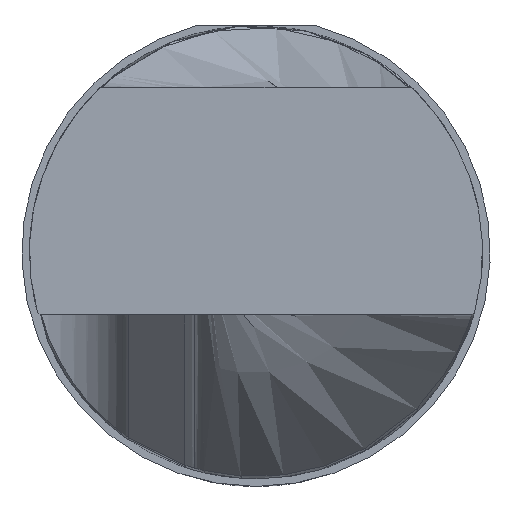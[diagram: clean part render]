
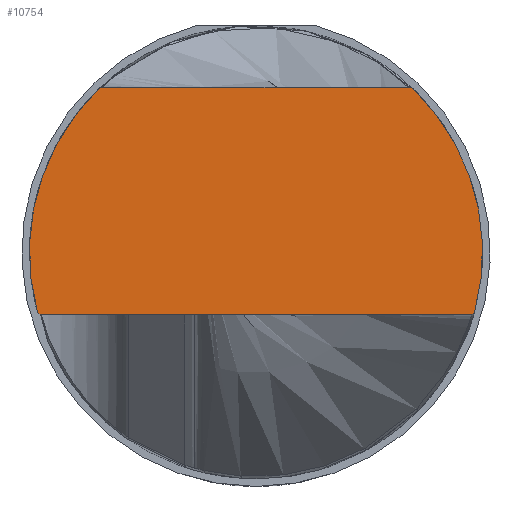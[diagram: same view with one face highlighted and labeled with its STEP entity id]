
A CAD part, front view. The second image highlights one B-rep face of the part: STEP entity #10754.
In plain terms, the highlighted planar face has unit normal (0, -1, 0).
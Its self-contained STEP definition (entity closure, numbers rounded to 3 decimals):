
#221 = CARTESIAN_POINT ( 'NONE',  ( 51.349, -2020., 54.405 ) ) ;
#346 = CARTESIAN_POINT ( 'NONE',  ( 51.587, -2020., 54.309 ) ) ;
#563 = DIRECTION ( 'NONE',  ( 0., 0., -1. ) ) ;
#621 = FACE_OUTER_BOUND ( 'NONE', #11854, .T. ) ;
#673 = CIRCLE ( 'NONE', #10057, 75. ) ;
#683 = CARTESIAN_POINT ( 'NONE',  ( 71.993, -2020., -20.17 ) ) ;
#749 = CARTESIAN_POINT ( 'NONE',  ( 0., -2020., 54.5 ) ) ;
#899 = VECTOR ( 'NONE', #4522, 1000. ) ;
#1401 = VERTEX_POINT ( 'NONE', #4199 ) ;
#1604 = EDGE_CURVE ( 'NONE', #9138, #10384, #3257, .T. ) ;
#1809 = EDGE_CURVE ( 'NONE', #9884, #9138, #11772, .T. ) ;
#1867 = EDGE_CURVE ( 'NONE', #4128, #6767, #6652, .T. ) ;
#1870 = CARTESIAN_POINT ( 'NONE',  ( 51.111, -2020., 54.5 ) ) ;
#2055 = CARTESIAN_POINT ( 'NONE',  ( -51.357, -2020., 54.409 ) ) ;
#2121 = VERTEX_POINT ( 'NONE', #7014 ) ;
#2350 = DIRECTION ( 'NONE',  ( 0., -1., 0. ) ) ;
#2539 = CARTESIAN_POINT ( 'NONE',  ( 51.111, -2020., 54.5 ) ) ;
#2795 = ORIENTED_EDGE ( 'NONE', *, *, #1809, .T. ) ;
#2960 = CARTESIAN_POINT ( 'NONE',  ( -71.993, -2020., -20.17 ) ) ;
#3018 = DIRECTION ( 'NONE',  ( 0., 0., -1. ) ) ;
#3257 = B_SPLINE_CURVE_WITH_KNOTS ( 'NONE', 3,
 ( #8568, #346, #221, #2539 ),
 .UNSPECIFIED., .F., .F.,
 ( 4, 4 ),
 ( 0., 1. ),
 .UNSPECIFIED. ) ;
#3504 = CARTESIAN_POINT ( 'NONE',  ( 0., -2020., 0. ) ) ;
#3714 = CARTESIAN_POINT ( 'NONE',  ( -71.415, -2020., -20.496 ) ) ;
#4094 = ORIENTED_EDGE ( 'NONE', *, *, #11702, .T. ) ;
#4128 = VERTEX_POINT ( 'NONE', #9616 ) ;
#4199 = CARTESIAN_POINT ( 'NONE',  ( 71.415, -2020., -20.496 ) ) ;
#4257 = CARTESIAN_POINT ( 'NONE',  ( 51.825, -2020., 54.214 ) ) ;
#4339 = CARTESIAN_POINT ( 'NONE',  ( 0., -2020., 0. ) ) ;
#4411 = CARTESIAN_POINT ( 'NONE',  ( 0., -2020., 0. ) ) ;
#4522 = DIRECTION ( 'NONE',  ( -1., 0., 0. ) ) ;
#4626 = EDGE_CURVE ( 'NONE', #4128, #10384, #5199, .T. ) ;
#4819 = ORIENTED_EDGE ( 'NONE', *, *, #7130, .T. ) ;
#4821 = DIRECTION ( 'NONE',  ( 0., -1., 0. ) ) ;
#4895 = CARTESIAN_POINT ( 'NONE',  ( -72.282, -2020., -20.008 ) ) ;
#5137 = EDGE_CURVE ( 'NONE', #1401, #2121, #9701, .T. ) ;
#5199 = LINE ( 'NONE', #749, #11345 ) ;
#5901 = ORIENTED_EDGE ( 'NONE', *, *, #4626, .F. ) ;
#6652 = B_SPLINE_CURVE_WITH_KNOTS ( 'NONE', 3,
 ( #9301, #2055, #12492, #8285 ),
 .UNSPECIFIED., .F., .F.,
 ( 4, 4 ),
 ( 0., 1. ),
 .UNSPECIFIED. ) ;
#6767 = VERTEX_POINT ( 'NONE', #7862 ) ;
#7014 = CARTESIAN_POINT ( 'NONE',  ( -71.415, -2020., -20.496 ) ) ;
#7040 = CARTESIAN_POINT ( 'NONE',  ( 71.415, -2020., -20.496 ) ) ;
#7130 = EDGE_CURVE ( 'NONE', #6767, #7331, #673, .T. ) ;
#7210 = AXIS2_PLACEMENT_3D ( 'NONE', #4339, #2350, #10607 ) ;
#7331 = VERTEX_POINT ( 'NONE', #7407 ) ;
#7407 = CARTESIAN_POINT ( 'NONE',  ( -72.282, -2020., -20.008 ) ) ;
#7730 = ORIENTED_EDGE ( 'NONE', *, *, #12777, .T. ) ;
#7862 = CARTESIAN_POINT ( 'NONE',  ( -51.812, -2020., 54.227 ) ) ;
#8069 = DIRECTION ( 'NONE',  ( 1., 0., 0. ) ) ;
#8285 = CARTESIAN_POINT ( 'NONE',  ( -51.812, -2020., 54.227 ) ) ;
#8568 = CARTESIAN_POINT ( 'NONE',  ( 51.825, -2020., 54.214 ) ) ;
#9138 = VERTEX_POINT ( 'NONE', #4257 ) ;
#9301 = CARTESIAN_POINT ( 'NONE',  ( -51.13, -2020., 54.5 ) ) ;
#9367 = B_SPLINE_CURVE_WITH_KNOTS ( 'NONE', 3,
 ( #7040, #9904, #683, #11130 ),
 .UNSPECIFIED., .F., .F.,
 ( 4, 4 ),
 ( 0., 1. ),
 .UNSPECIFIED. ) ;
#9616 = CARTESIAN_POINT ( 'NONE',  ( -51.13, -2020., 54.5 ) ) ;
#9701 = LINE ( 'NONE', #10721, #899 ) ;
#9831 = AXIS2_PLACEMENT_3D ( 'NONE', #3504, #11068, #3018 ) ;
#9884 = VERTEX_POINT ( 'NONE', #10224 ) ;
#9904 = CARTESIAN_POINT ( 'NONE',  ( 71.704, -2020., -20.333 ) ) ;
#10057 = AXIS2_PLACEMENT_3D ( 'NONE', #4411, #4821, #563 ) ;
#10224 = CARTESIAN_POINT ( 'NONE',  ( 72.282, -2020., -20.008 ) ) ;
#10384 = VERTEX_POINT ( 'NONE', #1870 ) ;
#10607 = DIRECTION ( 'NONE',  ( 0., 0., -1. ) ) ;
#10721 = CARTESIAN_POINT ( 'NONE',  ( 100., -2020., -20.496 ) ) ;
#10754 = ADVANCED_FACE ( 'NONE', ( #621 ), #12088, .T. ) ;
#11068 = DIRECTION ( 'NONE',  ( 0., -1., 0. ) ) ;
#11130 = CARTESIAN_POINT ( 'NONE',  ( 72.282, -2020., -20.008 ) ) ;
#11345 = VECTOR ( 'NONE', #8069, 1000. ) ;
#11702 = EDGE_CURVE ( 'NONE', #7331, #2121, #12765, .T. ) ;
#11772 = CIRCLE ( 'NONE', #7210, 75. ) ;
#11787 = ORIENTED_EDGE ( 'NONE', *, *, #1604, .T. ) ;
#11854 = EDGE_LOOP ( 'NONE', ( #2795, #11787, #5901, #12641, #4819, #4094, #12294, #7730 ) ) ;
#12088 = PLANE ( 'NONE',  #9831 ) ;
#12294 = ORIENTED_EDGE ( 'NONE', *, *, #5137, .F. ) ;
#12492 = CARTESIAN_POINT ( 'NONE',  ( -51.584, -2020., 54.318 ) ) ;
#12641 = ORIENTED_EDGE ( 'NONE', *, *, #1867, .T. ) ;
#12765 = B_SPLINE_CURVE_WITH_KNOTS ( 'NONE', 3,
 ( #4895, #2960, #13045, #3714 ),
 .UNSPECIFIED., .F., .F.,
 ( 4, 4 ),
 ( 0., 1. ),
 .UNSPECIFIED. ) ;
#12777 = EDGE_CURVE ( 'NONE', #1401, #9884, #9367, .T. ) ;
#13045 = CARTESIAN_POINT ( 'NONE',  ( -71.704, -2020., -20.333 ) ) ;
